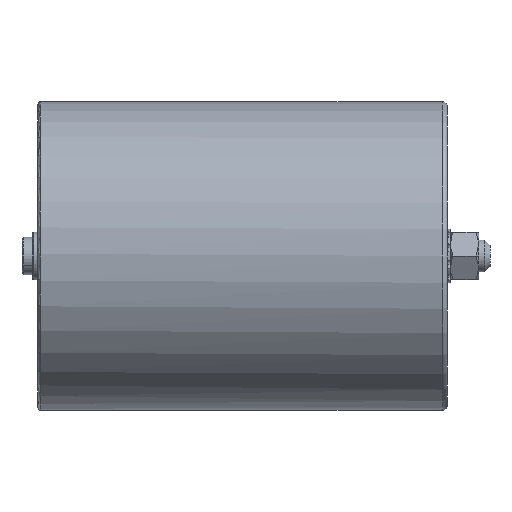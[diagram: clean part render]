
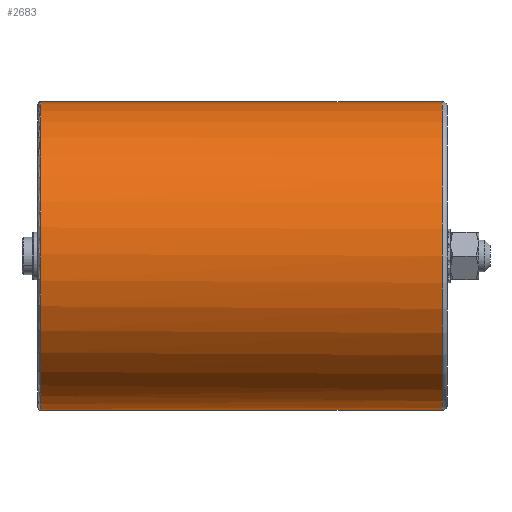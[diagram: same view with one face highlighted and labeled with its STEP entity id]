
A CAD part, left-side view. The second image highlights one B-rep face of the part: STEP entity #2683.
In plain terms, the highlighted cylindrical face has radius 58 mm (diameter 116 mm), a partial arc.
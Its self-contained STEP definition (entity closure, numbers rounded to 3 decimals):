
#26 = VERTEX_POINT ( 'NONE', #3894 ) ;
#48 = CARTESIAN_POINT ( 'NONE',  ( 0., 153., 58. ) ) ;
#120 = CARTESIAN_POINT ( 'NONE',  ( 0., 0., 58. ) ) ;
#143 = CIRCLE ( 'NONE', #1243, 58. ) ;
#213 = DIRECTION ( 'NONE',  ( 0.659, 0., 0.753 ) ) ;
#217 = CIRCLE ( 'NONE', #3199, 58. ) ;
#285 = DIRECTION ( 'NONE',  ( 0., 0., -1. ) ) ;
#394 = DIRECTION ( 'NONE',  ( 0., -1., 0. ) ) ;
#412 = DIRECTION ( 'NONE',  ( 0., -1., 0. ) ) ;
#507 = ORIENTED_EDGE ( 'NONE', *, *, #2847, .T. ) ;
#515 = DIRECTION ( 'NONE',  ( 0., 1., 0. ) ) ;
#583 = ORIENTED_EDGE ( 'NONE', *, *, #4277, .T. ) ;
#698 = VECTOR ( 'NONE', #394, 1000. ) ;
#938 = EDGE_LOOP ( 'NONE', ( #1553, #2117, #583, #1077, #507 ) ) ;
#1017 = DIRECTION ( 'NONE',  ( 0., -1., 0. ) ) ;
#1074 = CARTESIAN_POINT ( 'NONE',  ( -38.196, 153., -43.647 ) ) ;
#1077 = ORIENTED_EDGE ( 'NONE', *, *, #2749, .T. ) ;
#1099 = CARTESIAN_POINT ( 'NONE',  ( 0., 2., -58. ) ) ;
#1243 = AXIS2_PLACEMENT_3D ( 'NONE', #3019, #412, #3362 ) ;
#1270 = DIRECTION ( 'NONE',  ( 0., -1., 0. ) ) ;
#1553 = ORIENTED_EDGE ( 'NONE', *, *, #1621, .F. ) ;
#1621 = EDGE_CURVE ( 'NONE', #2399, #2695, #3028, .T. ) ;
#1705 = CARTESIAN_POINT ( 'NONE',  ( 0., 0., -58. ) ) ;
#1748 = VECTOR ( 'NONE', #1017, 1000. ) ;
#1926 = CARTESIAN_POINT ( 'NONE',  ( 0., 0., 0. ) ) ;
#2117 = ORIENTED_EDGE ( 'NONE', *, *, #3012, .T. ) ;
#2208 = CYLINDRICAL_SURFACE ( 'NONE', #3402, 58. ) ;
#2266 = CIRCLE ( 'NONE', #3243, 58. ) ;
#2399 = VERTEX_POINT ( 'NONE', #48 ) ;
#2479 = VERTEX_POINT ( 'NONE', #1099 ) ;
#2605 = CARTESIAN_POINT ( 'NONE',  ( 0., 2., 58. ) ) ;
#2683 = ADVANCED_FACE ( 'NONE', ( #3236 ), #2208, .T. ) ;
#2695 = VERTEX_POINT ( 'NONE', #2605 ) ;
#2748 = VERTEX_POINT ( 'NONE', #1074 ) ;
#2749 = EDGE_CURVE ( 'NONE', #26, #2479, #3619, .T. ) ;
#2800 = CARTESIAN_POINT ( 'NONE',  ( 0., 2., 0. ) ) ;
#2837 = DIRECTION ( 'NONE',  ( 0., 0., -1. ) ) ;
#2847 = EDGE_CURVE ( 'NONE', #2479, #2695, #217, .T. ) ;
#3012 = EDGE_CURVE ( 'NONE', #2399, #2748, #2266, .T. ) ;
#3019 = CARTESIAN_POINT ( 'NONE',  ( 0., 153., 0. ) ) ;
#3028 = LINE ( 'NONE', #120, #1748 ) ;
#3199 = AXIS2_PLACEMENT_3D ( 'NONE', #2800, #515, #2837 ) ;
#3236 = FACE_OUTER_BOUND ( 'NONE', #938, .T. ) ;
#3243 = AXIS2_PLACEMENT_3D ( 'NONE', #4244, #1270, #213 ) ;
#3362 = DIRECTION ( 'NONE',  ( 0.659, 0., 0.753 ) ) ;
#3402 = AXIS2_PLACEMENT_3D ( 'NONE', #1926, #3534, #285 ) ;
#3534 = DIRECTION ( 'NONE',  ( 0., -1., 0. ) ) ;
#3619 = LINE ( 'NONE', #1705, #698 ) ;
#3894 = CARTESIAN_POINT ( 'NONE',  ( 0., 153., -58. ) ) ;
#4244 = CARTESIAN_POINT ( 'NONE',  ( 0., 153., 0. ) ) ;
#4277 = EDGE_CURVE ( 'NONE', #2748, #26, #143, .T. ) ;
